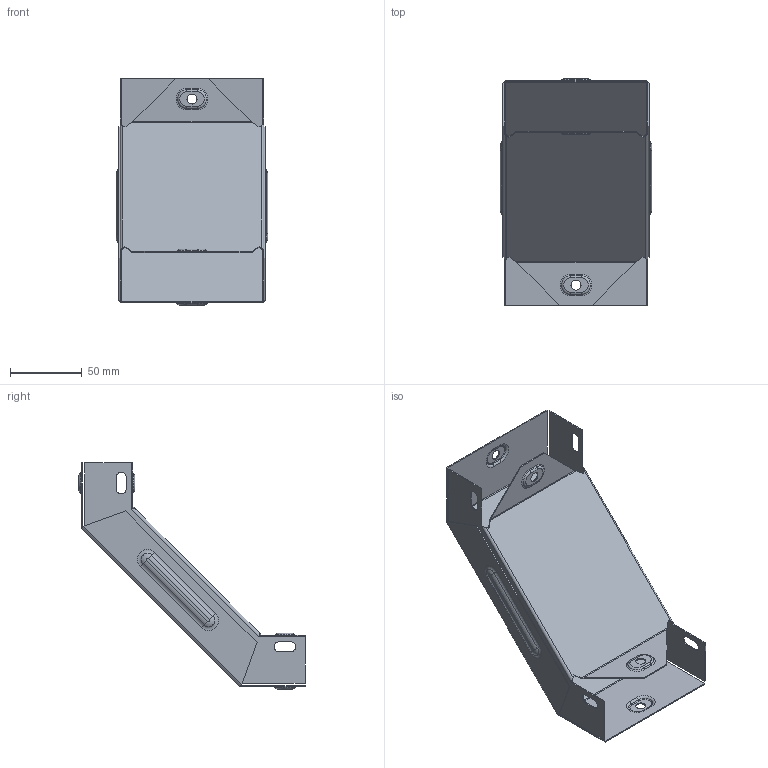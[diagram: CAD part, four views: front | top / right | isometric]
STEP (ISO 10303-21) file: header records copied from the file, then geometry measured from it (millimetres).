
FILE_DESCRIPTION (( 'STEP AP214' ), '1' );
FILE_NAME ('vo9035100_捘.STEP', '2019-06-10T08:52:54', ( '砐錪賧瘔蠈錪 Windows' ), ( '' ), 'SwSTEP 2.0', 'SolidWorks 2018', '' );
FILE_SCHEMA (( 'AUTOMOTIVE_DESIGN' ));
Length unit declared in the file: millimetre
Products named in the file (1): vo9035100_捘
Bounding box: 105.6 x 157.32 x 157.32 mm (x, y, z)
Volume: 50043.8 mm3; surface area: 126724.7 mm2
Topology: 2 solids, 2 shells, 262 faces, 606 edges, 364 vertices
Faces by surface type: cylinder 98, plane 92, torus 64, bspline 8
Entity records: 7621 total; most frequent: CARTESIAN_POINT 1481, DIRECTION 1360, ORIENTED_EDGE 1212, EDGE_CURVE 606, AXIS2_PLACEMENT_3D 531, VERTEX_POINT 364, VECTOR 298, LINE 298
